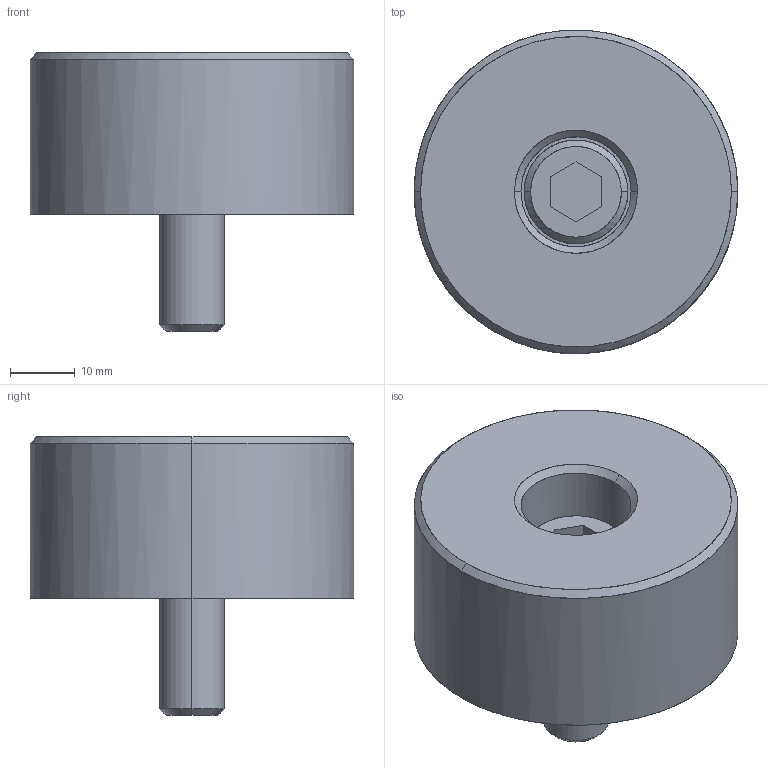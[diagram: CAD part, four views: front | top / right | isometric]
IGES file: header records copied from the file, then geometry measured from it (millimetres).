
Global section: file name: E:\UnigraphicsGraphicData\MISUMI_PRESS-PARTS\IGES\3d_sbv50-25-n-25_00594_r00.igs; native system: NX V5.0; preprocessor: UGS NX IGES V5.0; author: MISUMI; date: 20110105.162508; units: millimetre
Bounding box: 50 x 50 x 43 mm (x, y, z)
Surface area: 10523.1 mm2 (no closed solid volume)
Topology: 0 solids, 0 shells, 31 faces, 204 edges, 204 vertices
Faces by surface type: bspline 31
